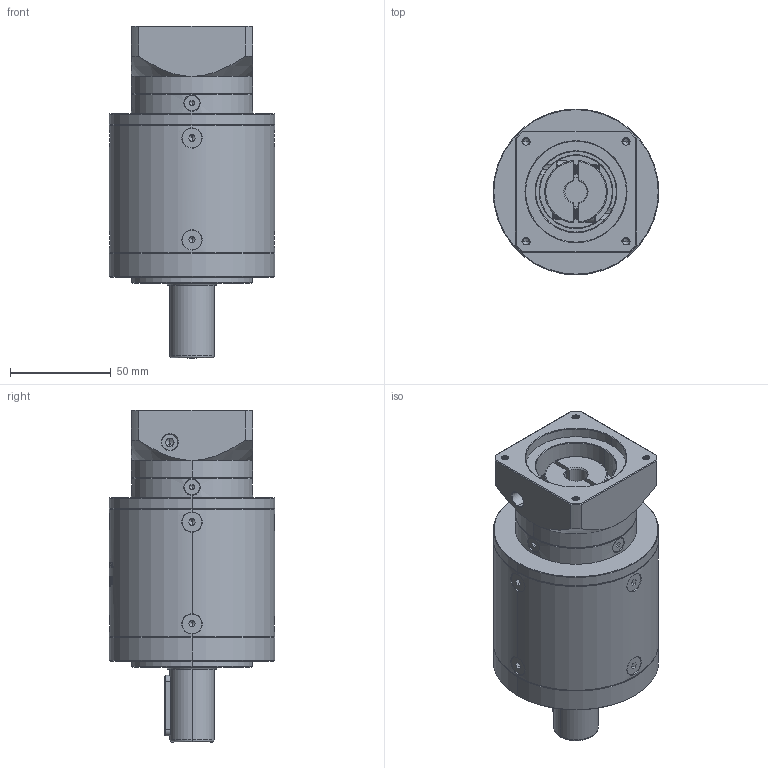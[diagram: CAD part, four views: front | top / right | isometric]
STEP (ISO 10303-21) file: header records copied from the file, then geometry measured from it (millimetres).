
FILE_DESCRIPTION (( 'STEP AP214' ), '1' );
FILE_NAME ('ZE80-D22-L3-11-50-70-M4.step', '2022-05-08T06:04:19', ( '' ), ( 'Microsoft' ), 'SwSTEP 2.0', 'SolidWorks 2016', '' );
FILE_SCHEMA (( 'AUTOMOTIVE_DESIGN' ));
Length unit declared in the file: millimetre
Products named in the file (1): ZE80-D22-L3-11-50-70-M4
Bounding box: 82 x 82 x 164.5 mm (x, y, z)
Volume: 549313.5 mm3; surface area: 69334.4 mm2
Topology: 18 solids, 18 shells, 2094 faces, 5509 edges, 3506 vertices
Faces by surface type: plane 943, cylinder 485, bspline 340, cone 312, torus 14
Entity records: 116405 total; most frequent: CARTESIAN_POINT 45797, ORIENTED_EDGE 10926, DIRECTION 8510, EDGE_CURVE 5463, VERTEX_POINT 3506, LINE 2904, VECTOR 2904, AXIS2_PLACEMENT_3D 2803
